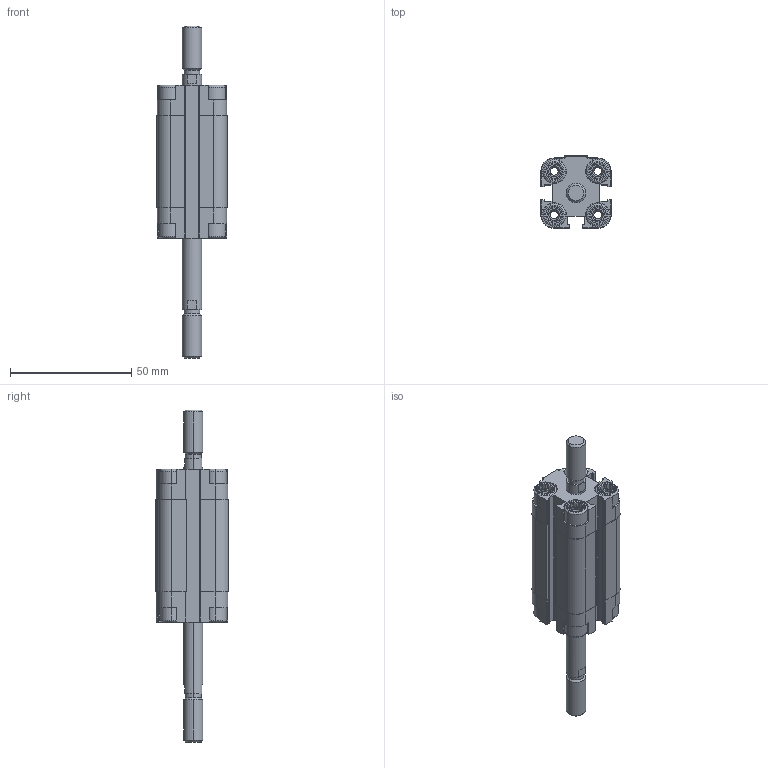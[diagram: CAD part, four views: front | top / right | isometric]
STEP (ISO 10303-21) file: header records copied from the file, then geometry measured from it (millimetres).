
FILE_DESCRIPTION (( 'STEP AP203' ), '1' );
FILE_NAME ('CDVU16-25M-P.STEP', '2020-07-21T15:04:28', ( '' ), ( '' ), 'SwSTEP 2.0', 'SolidWorks 2019', '' );
FILE_SCHEMA (( 'CONFIG_CONTROL_DESIGN' ));
Length unit declared in the file: millimetre
Products named in the file (1): CDVU16-25M-P
Bounding box: 29 x 30 x 137 mm (x, y, z)
Volume: 39640.5 mm3; surface area: 22642.3 mm2
Topology: 2 solids, 2 shells, 566 faces, 1504 edges, 978 vertices
Faces by surface type: plane 338, cylinder 164, cone 48, torus 16
Entity records: 17771 total; most frequent: CARTESIAN_POINT 3621, ORIENTED_EDGE 3000, DIRECTION 2850, EDGE_CURVE 1500, VERTEX_POINT 978, AXIS2_PLACEMENT_3D 975, LINE 900, VECTOR 900
